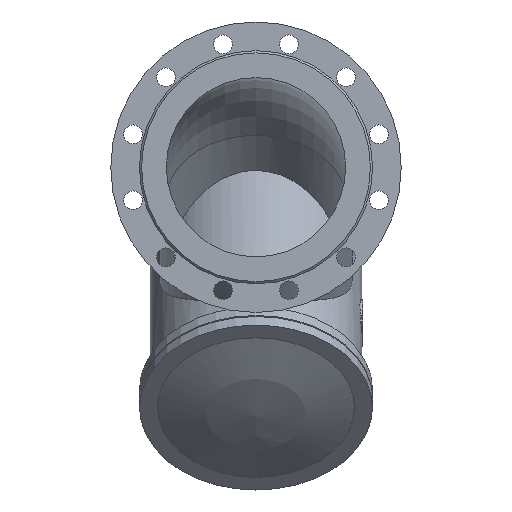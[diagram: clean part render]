
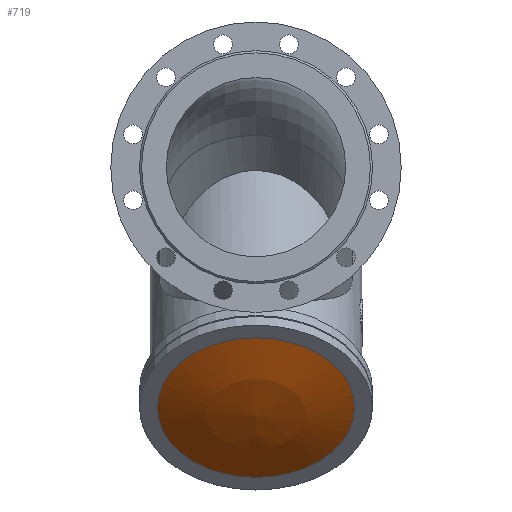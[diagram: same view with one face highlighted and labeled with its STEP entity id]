
A CAD part, front view. The second image highlights one B-rep face of the part: STEP entity #719.
In plain terms, the highlighted spherical face has radius 534.174 mm.
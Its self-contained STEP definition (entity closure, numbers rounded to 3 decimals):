
#719=ADVANCED_FACE('',(#1514),#1516,.T.);
#1514=FACE_OUTER_BOUND('',#1515,.T.);
#1515=EDGE_LOOP('',(#1878));
#1516=SPHERICAL_SURFACE('',#1517,534.174);
#1517=AXIS2_PLACEMENT_3D('',#1518,#1519,#1520);
#1518=CARTESIAN_POINT('',(0.,224.895,29.895));
#1519=DIRECTION('',(0.,-0.707,-0.707));
#1520=DIRECTION('',(0.,0.707,-0.707));
#1878=ORIENTED_EDGE('',*,*,#2036,.T.);
#2036=EDGE_CURVE('',#2304,#2304,#2305,.T.);
#2304=VERTEX_POINT('',#3790);
#2305=CIRCLE('',#3791,137.5);
#3790=CARTESIAN_POINT('',(0.,-42.868,-432.322));
#3791=AXIS2_PLACEMENT_3D('',#3792,#3793,#3794);
#3792=CARTESIAN_POINT('',(0.,-140.095,-335.095));
#3793=DIRECTION('',(0.,-0.707,-0.707));
#3794=DIRECTION('',(0.,0.707,-0.707));
